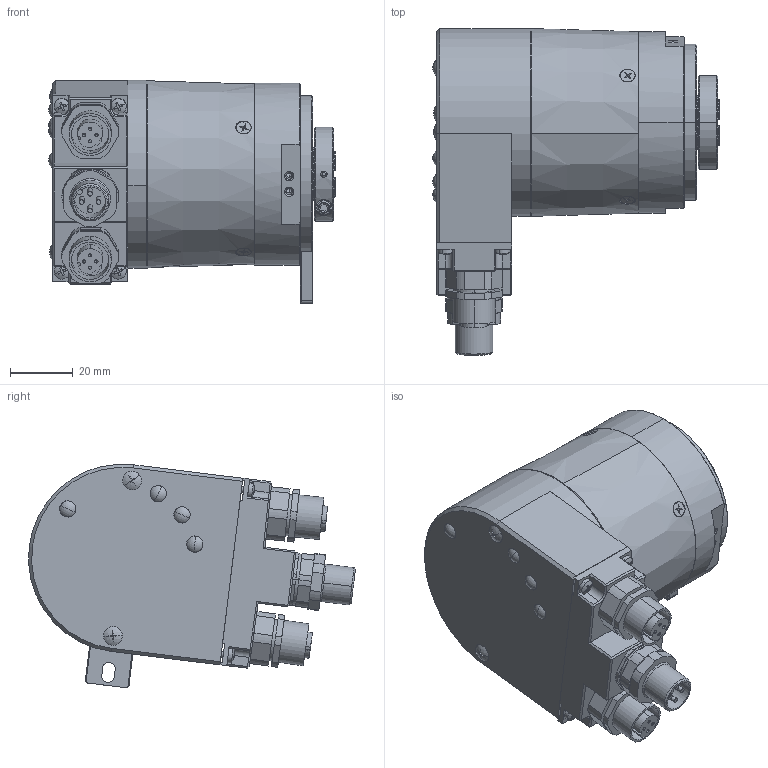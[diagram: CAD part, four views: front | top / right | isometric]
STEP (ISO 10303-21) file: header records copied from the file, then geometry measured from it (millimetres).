
FILE_DESCRIPTION (( 'STEP AP214' ), '1' );
FILE_NAME ('5888.14B2.XXXX.STEP', '2009-01-09T07:08:10', ( 'admin' ), ( 'Fritz Kübler GmbH' ), 'SwSTEP 2.0', 'SolidWorks 2008', '' );
FILE_SCHEMA (( 'AUTOMOTIVE_DESIGN' ));
Length unit declared in the file: millimetre
Products named in the file (1): 5888.14B2.XXXX
Bounding box: 91.4 x 104.28 x 71.29 mm (x, y, z)
Volume: 120541.8 mm3; surface area: 80642.4 mm2
Topology: 29 solids, 30 shells, 2482 faces, 6600 edges, 4247 vertices
Faces by surface type: cylinder 1060, plane 963, cone 333, torus 89, sphere 20, bspline 17
Entity records: 108907 total; most frequent: CARTESIAN_POINT 18893, DIRECTION 13408, ORIENTED_EDGE 13112, EDGE_CURVE 6556, AXIS2_PLACEMENT_3D 5200, VERTEX_POINT 4247, LINE 3008, VECTOR 3008
